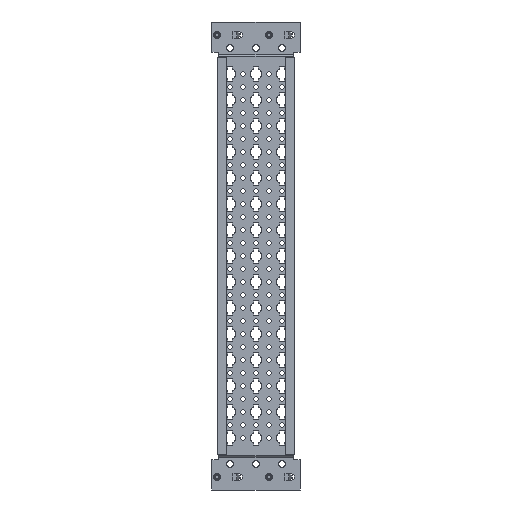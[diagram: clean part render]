
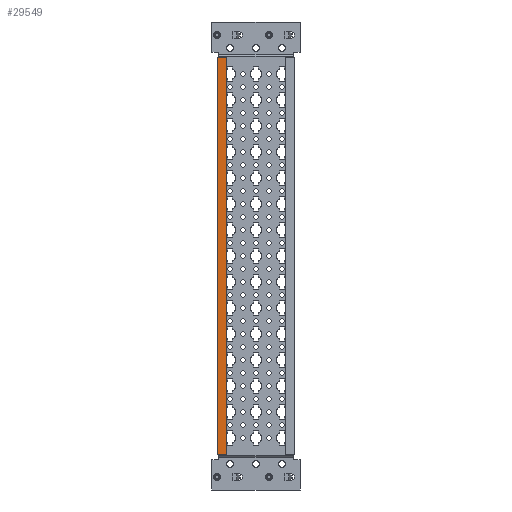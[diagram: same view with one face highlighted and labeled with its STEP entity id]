
A CAD part, left-side view. The second image highlights one B-rep face of the part: STEP entity #29549.
In plain terms, the highlighted planar face has unit normal (-1, 0, 0) as drawn and (0, 0, -1) by its records, which use the part's own axes.
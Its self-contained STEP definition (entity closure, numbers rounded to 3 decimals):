
#7025 = VERTEX_POINT('',#7026);
#7026 = CARTESIAN_POINT('',(191.,37.5,-25.));
#7032 = EDGE_CURVE('',#7033,#7025,#7035,.T.);
#7033 = VERTEX_POINT('',#7034);
#7034 = CARTESIAN_POINT('',(-191.,37.5,-25.));
#7035 = LINE('',#7036,#7037);
#7036 = CARTESIAN_POINT('',(0.,37.5,-25.));
#7037 = VECTOR('',#7038,1.);
#7038 = DIRECTION('',(1.,-0.,0.));
#29428 = VERTEX_POINT('',#29429);
#29429 = CARTESIAN_POINT('',(-191.,35.4,-25.));
#29444 = EDGE_CURVE('',#29428,#7033,#29445,.T.);
#29445 = LINE('',#29446,#29447);
#29446 = CARTESIAN_POINT('',(-191.,35.4,-25.));
#29447 = VECTOR('',#29448,1.);
#29448 = DIRECTION('',(0.,1.,0.));
#29468 = VERTEX_POINT('',#29469);
#29469 = CARTESIAN_POINT('',(191.,35.4,-25.));
#29475 = EDGE_CURVE('',#29468,#7025,#29476,.T.);
#29476 = LINE('',#29477,#29478);
#29477 = CARTESIAN_POINT('',(191.,0.,-25.));
#29478 = VECTOR('',#29479,1.);
#29479 = DIRECTION('',(-0.,1.,0.));
#29501 = VERTEX_POINT('',#29502);
#29502 = CARTESIAN_POINT('',(191.,28.5,-25.));
#29508 = EDGE_CURVE('',#29468,#29501,#29509,.T.);
#29509 = LINE('',#29510,#29511);
#29510 = CARTESIAN_POINT('',(191.,0.,-25.));
#29511 = VECTOR('',#29512,1.);
#29512 = DIRECTION('',(0.,-1.,0.));
#29523 = EDGE_CURVE('',#29524,#29428,#29526,.T.);
#29524 = VERTEX_POINT('',#29525);
#29525 = CARTESIAN_POINT('',(-191.,28.5,-25.));
#29526 = LINE('',#29527,#29528);
#29527 = CARTESIAN_POINT('',(-191.,0.,-25.));
#29528 = VECTOR('',#29529,1.);
#29529 = DIRECTION('',(0.,1.,0.));
#29549 = ADVANCED_FACE('',(#29550),#29563,.F.);
#29550 = FACE_BOUND('',#29551,.T.);
#29551 = EDGE_LOOP('',(#29552,#29553,#29554,#29555,#29556,#29557));
#29552 = ORIENTED_EDGE('',*,*,#29523,.T.);
#29553 = ORIENTED_EDGE('',*,*,#29444,.T.);
#29554 = ORIENTED_EDGE('',*,*,#7032,.T.);
#29555 = ORIENTED_EDGE('',*,*,#29475,.F.);
#29556 = ORIENTED_EDGE('',*,*,#29508,.T.);
#29557 = ORIENTED_EDGE('',*,*,#29558,.T.);
#29558 = EDGE_CURVE('',#29501,#29524,#29559,.T.);
#29559 = LINE('',#29560,#29561);
#29560 = CARTESIAN_POINT('',(0.,28.5,-25.));
#29561 = VECTOR('',#29562,1.);
#29562 = DIRECTION('',(-1.,0.,0.));
#29563 = PLANE('',#29564);
#29564 = AXIS2_PLACEMENT_3D('',#29565,#29566,#29567);
#29565 = CARTESIAN_POINT('',(0.,0.,-25.)
  );
#29566 = DIRECTION('',(0.,0.,1.));
#29567 = DIRECTION('',(0.,-1.,0.));
